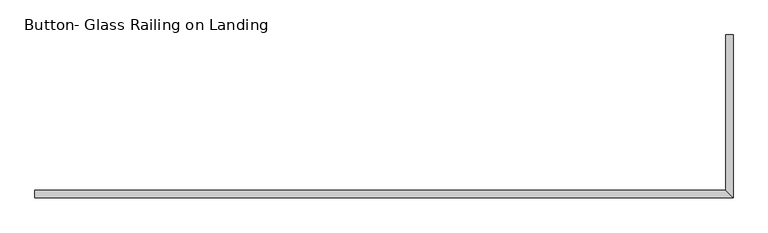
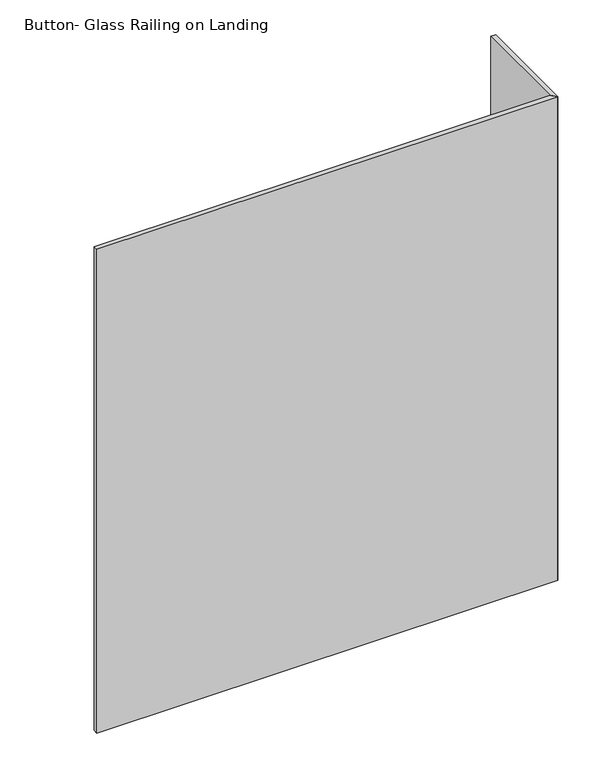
"""IFC4 building model written with IfcOpenShell, lengths in millimetres: railing geometry, Button- Glass Railing on Landing."""

from ifc_helpers import new_model, si_unit, frame, origin, place, context, project, spatial, polyline, outline, extrude, source, transform, mapped, element, save


def button_glass_railing_on_landing_e7fbc1ca(model_context):
    return source(origin(), model_context, "Body", "SweptSolid", [
        extrude(outline(polyline([(2062.9076518, 2194.3994253), (2075.6076518, 2194.3994253), (2075.6076518, 1908.6494253), (2062.9076518, 1921.3494253), (2062.9076518, 2194.3994253)])), frame((0.0, 0.0, 2768.6), z_axis=(0.0, 0.0, 1.0), x_axis=(1.0, 0.0, 0.0)), (0.0, 0.0, 1.0), 1358.9),
        extrude(outline(polyline([(2062.9076518, 1921.3494253), (2075.6076518, 1908.6494253), (850.0576518, 1908.6494253), (850.0576518, 1921.3494253), (2062.9076518, 1921.3494253)])), frame((0.0, 0.0, 2768.6), z_axis=(0.0, 0.0, 1.0), x_axis=(1.0, 0.0, 0.0)), (0.0, 0.0, 1.0), 1358.9),
    ])


if __name__ == "__main__":
    model = new_model("IFC4")
    model_context = context("Model", 3, world=origin())
    ifc_project = project(units=[si_unit("LENGTHUNIT", "METRE", prefix="MILLI")], contexts=[model_context])
    site = spatial("IfcSite", under=ifc_project)
    building = spatial("IfcBuilding", under=site)
    placement = place(None, origin())
    button_glass_railing_on_landing_shape = button_glass_railing_on_landing_e7fbc1ca(model_context)
    element("IfcRailing", 1, ObjectType="Button- Glass Railing on Landing", at=placement, inside=building, context=model_context, shape_type="MappedRepresentation", body=[
        mapped(button_glass_railing_on_landing_shape, transform((0.0, 0.0, 0.0), x_axis=(1.0, 0.0, 0.0), y_axis=(0.0, 1.0, 0.0), z_axis=(0.0, 0.0, 1.0))),
    ])
    save(model, "model.ifc")
